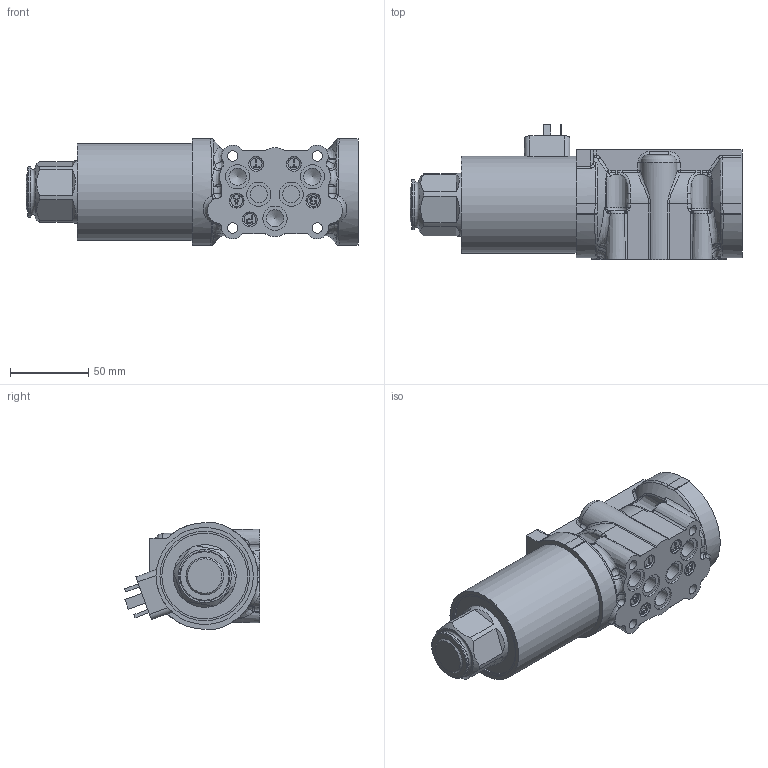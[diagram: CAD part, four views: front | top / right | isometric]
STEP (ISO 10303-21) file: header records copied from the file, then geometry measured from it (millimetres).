
FILE_DESCRIPTION(/* description */ (''),/* implementation_level */ '2;1');
FILE_NAME(/* name */ 'O:\Tekeningen\3D stepfiles\Argo-Hytos\rpe4_102Y11_e1.stp',/* time_stamp */ '2026-07-13T08:49:37+02:00',/* author */ ('sales'),/* organization */ (''),/* preprocessor_version */ 'ST-DEVELOPER v18',/* originating_system */ 'Autodesk Inventor LT',/* authorisation */ '');
FILE_SCHEMA (('AUTOMOTIVE_DESIGN { 1 0 10303 214 3 1 1 }'));
Products named in the file (1): rpe4_102Y11_e1
Bounding box: 212 x 86.29 x 68.21 mm (x, y, z)
Volume: 615277.5 mm3; surface area: 60175.2 mm2
Topology: 1 solids, 4 shells, 528 faces, 1327 edges, 836 vertices
Faces by surface type: plane 206, bspline 159, cylinder 91, cone 36, torus 25, sphere 11
Full cylindrical faces by diameter (mm): 2.4 x1, 4 x6, 6.6 x4, 10.5 x4, 11 x5, 15.45 x5, 32 x1, 40 x1, 54.8 x1, 57.2 x1, 62 x1
Entity records: 38314 total; most frequent: CARTESIAN_POINT 26431, ORIENTED_EDGE 2632, DIRECTION 2281, EDGE_CURVE 1316, AXIS2_PLACEMENT_3D 870, VERTEX_POINT 836, EDGE_LOOP 576, LINE 541
